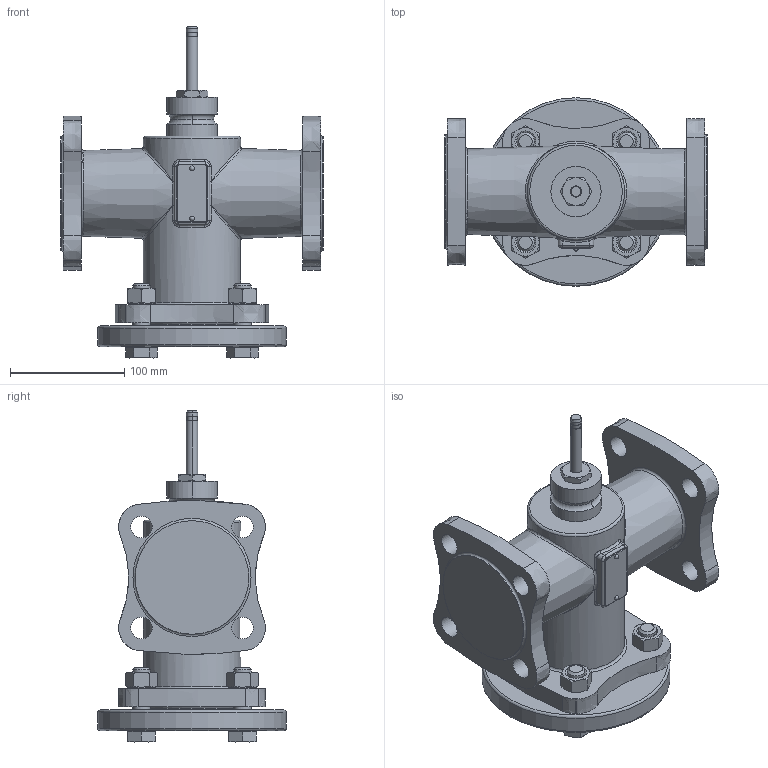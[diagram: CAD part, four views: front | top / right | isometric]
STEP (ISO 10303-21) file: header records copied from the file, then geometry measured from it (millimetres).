
FILE_DESCRIPTION(/* description */ ('Step214'),/* implementation_level */ '2;1');
FILE_NAME(/* name */ 'VVF32_42 DN50.stp',/* time_stamp */ '2015-11-10T13:26:41+01:00',/* author */ (''),/* organization */ ('Siemens'),/* preprocessor_version */ 'ST-DEVELOPER v15',/* originating_system */ 'SIEMENS PLM Software NX 8.5',/* authorisation */ 'for Duktil only');
FILE_SCHEMA (('AUTOMOTIVE_DESIGN { 1 0 10303 214 3 1 1 1 }'));
Length unit declared in the file: millimetre
Products named in the file (1): Volc19F47525lfe2
Bounding box: 230 x 165 x 290.5 mm (x, y, z)
Volume: 2658302.8 mm3; surface area: 240555.6 mm2
Topology: 1 solids, 1 shells, 326 faces, 748 edges, 459 vertices
Faces by surface type: plane 104, cone 92, cylinder 66, extrusion 31, torus 19, bspline 8, sphere 6
Full cylindrical faces by diameter (mm): 15.732 x8, 19 x16, 22.5 x4, 85 x1, 99.4 x3, 165 x1
Entity records: 12415 total; most frequent: CARTESIAN_POINT 4523, ORIENTED_EDGE 1342, DIRECTION 1277, EDGE_CURVE 671, AXIS2_PLACEMENT_3D 553, EDGE_LOOP 446, VERTEX_POINT 443, ADVANCED_FACE 326
